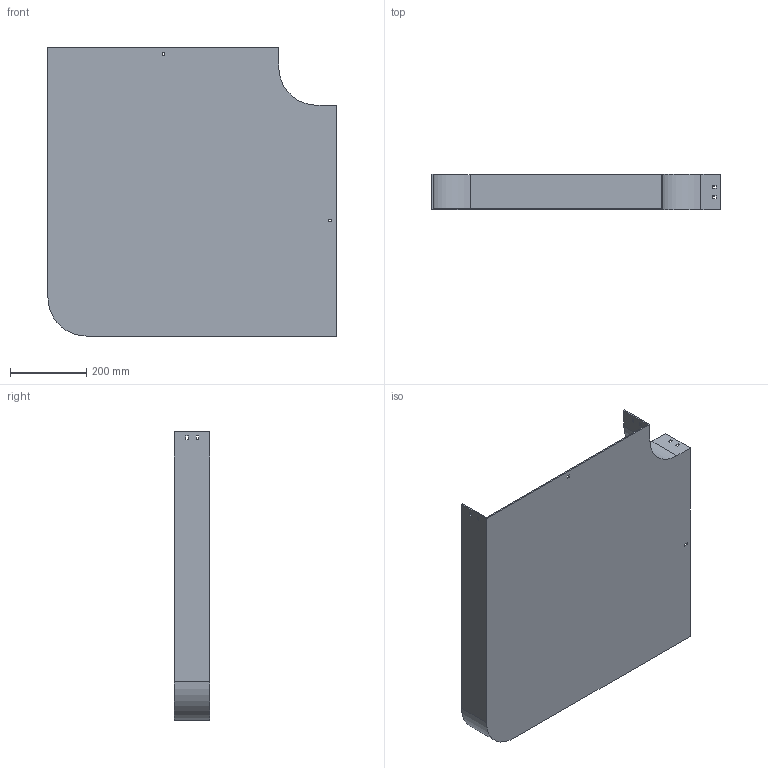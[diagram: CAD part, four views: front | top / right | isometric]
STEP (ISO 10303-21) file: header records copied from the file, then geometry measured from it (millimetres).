
FILE_DESCRIPTION (( 'STEP AP214' ), '1' );
FILE_NAME ('10B1I600.step', '2025-02-21T09:42:20', ( '' ), ( '' ), 'SwSTEP 2.0', 'SolidWorks 2023', '' );
FILE_SCHEMA (( 'AUTOMOTIVE_DESIGN' ));
Length unit declared in the file: millimetre
Products named in the file (1): 10B1I600
Bounding box: 754 x 92.5 x 754 mm (x, y, z)
Volume: 2445139.1 mm3; surface area: 1409892.9 mm2
Topology: 1 solids, 1 shells, 58 faces, 168 edges, 112 vertices
Faces by surface type: plane 54, cylinder 4
Entity records: 1943 total; most frequent: CARTESIAN_POINT 339, ORIENTED_EDGE 336, DIRECTION 294, EDGE_CURVE 168, LINE 160, VECTOR 160, VERTEX_POINT 112, EDGE_LOOP 78
